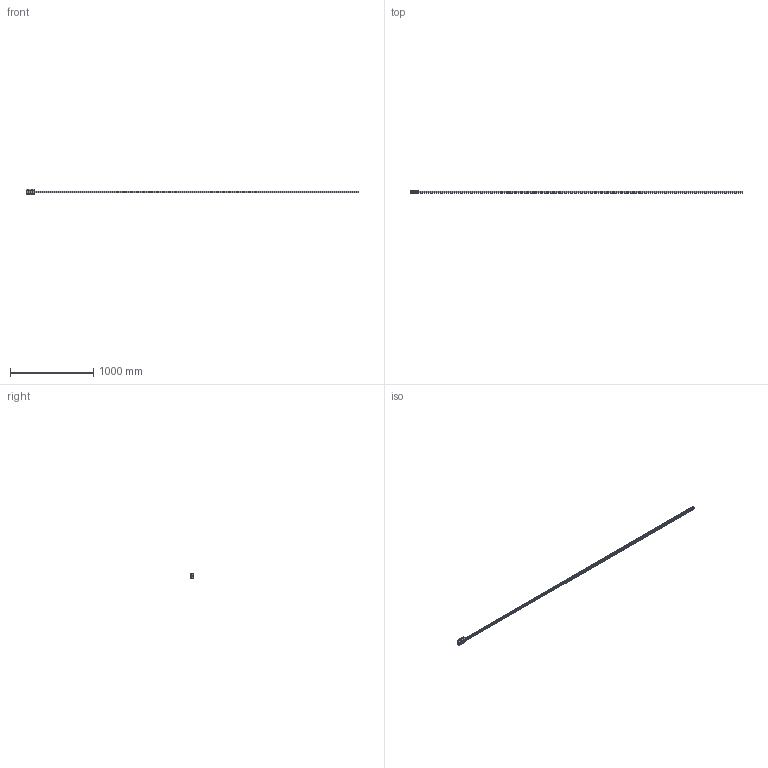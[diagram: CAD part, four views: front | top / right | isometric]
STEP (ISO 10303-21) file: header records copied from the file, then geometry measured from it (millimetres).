
FILE_DESCRIPTION( ( 'STEP AP203' ), '1' );
FILE_NAME( 'p:/temp/worker_8/temp/exporttempdir_5952_205_hCgqG/format_0/FDI25 84363NV_4000-0.stp', '2021-02-04T01:57:47', ( 'License CC BY-ND 4.0' ), ( 'CADENAS' ), ' ', 'PARTsolutions', ' ' );
FILE_SCHEMA( ( 'CONFIG_CONTROL_DESIGN' ) );
Length unit declared in the file: millimetre
Products named in the file (3): FDI25 84363NV_4000-0; _FDI K_25K-4000-0; _FDI_25K Slider
Assembly tree (2 placements, depth 2):
  FDI25 84363NV_4000-0
    _FDI K_25K-4000-0
    _FDI_25K Slider
Bounding box: 4000 x 36 x 70 mm (x, y, z)
Volume: 2055683.5 mm3; surface area: 570734.9 mm2
Topology: 2 solids, 2 shells, 559 faces, 1486 edges, 1011 vertices
Faces by surface type: cylinder 292, plane 256, torus 8, cone 3
Full cylindrical faces by diameter (mm): 6.6 x67, 6.647 x4, 8.5 x8, 9 x4, 10 x8, 11 x67
Entity records: 16507 total; most frequent: DIRECTION 2957, CARTESIAN_POINT 2758, ORIENTED_EDGE 2462, EDGE_CURVE 1231, AXIS2_PLACEMENT_3D 1173, EDGE_LOOP 967, VERTEX_POINT 924, FACE_OUTER_BOUND 725
